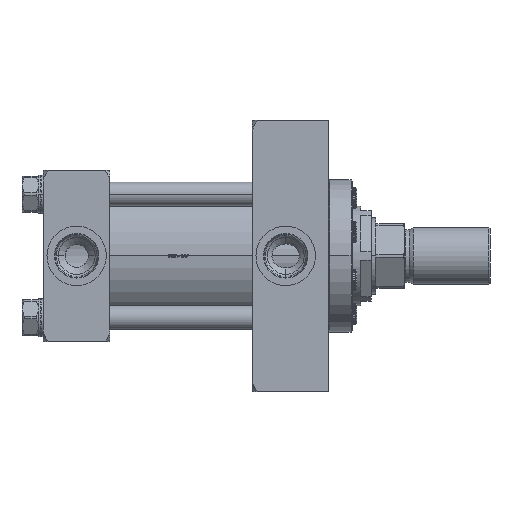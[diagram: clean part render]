
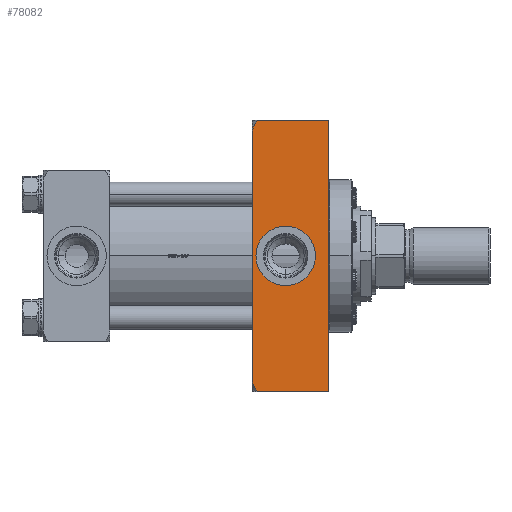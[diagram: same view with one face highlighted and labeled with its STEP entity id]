
A CAD part, top view. The second image highlights one B-rep face of the part: STEP entity #78082.
In plain terms, the highlighted planar face has unit normal (0, 0, 1).
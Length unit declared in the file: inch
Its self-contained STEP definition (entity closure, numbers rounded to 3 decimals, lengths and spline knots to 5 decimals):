
#211 = CARTESIAN_POINT ( 'NONE',  ( -3.90659, 3.51767, 2.25 ) ) ;
#674 = CARTESIAN_POINT ( 'NONE',  ( -3.94847, 3.44706, 2.25 ) ) ;
#1794 = CARTESIAN_POINT ( 'NONE',  ( -3.125, 0., 2.25 ) ) ;
#2324 = ORIENTED_EDGE ( 'NONE', *, *, #5489, .F. ) ;
#3123 = ORIENTED_EDGE ( 'NONE', *, *, #91661, .T. ) ;
#5265 = CARTESIAN_POINT ( 'NONE',  ( -3.125, 0.7815, 2.25 ) ) ;
#5489 = EDGE_CURVE ( 'NONE', #78721, #90861, #66604, .T. ) ;
#5938 = VECTOR ( 'NONE', #17924, 39.37008 ) ;
#6189 = CARTESIAN_POINT ( 'NONE',  ( -4., 3.5625, 2.25 ) ) ;
#6554 = CARTESIAN_POINT ( 'NONE',  ( -3.87574, 3.5625, 2.25 ) ) ;
#7526 = CARTESIAN_POINT ( 'NONE',  ( -3.99525, 3.31781, 2.25 ) ) ;
#8486 = CARTESIAN_POINT ( 'NONE',  ( -3.99903, 3.2902, 2.25 ) ) ;
#9337 = CARTESIAN_POINT ( 'NONE',  ( -4., -3.5625, 2.25 ) ) ;
#11548 = LINE ( 'NONE', #55930, #5938 ) ;
#11895 = PLANE ( 'NONE',  #64357 ) ;
#13955 = CARTESIAN_POINT ( 'NONE',  ( -3.125, 0., 2.25 ) ) ;
#14229 = CARTESIAN_POINT ( 'NONE',  ( -4., -3.29006, 2.25 ) ) ;
#14714 = CARTESIAN_POINT ( 'NONE',  ( -3.89158, -3.5401, 2.25 ) ) ;
#15050 = EDGE_CURVE ( 'NONE', #38373, #79080, #24473, .T. ) ;
#15660 = CARTESIAN_POINT ( 'NONE',  ( -3.94894, -3.44614, 2.25 ) ) ;
#15725 = DIRECTION ( 'NONE',  ( 0., 1., 0. ) ) ;
#15879 = CARTESIAN_POINT ( 'NONE',  ( -2., -3.5625, 2.25 ) ) ;
#16077 = ORIENTED_EDGE ( 'NONE', *, *, #50615, .T. ) ;
#17888 = EDGE_CURVE ( 'NONE', #73226, #63215, #43352, .T. ) ;
#17924 = DIRECTION ( 'NONE',  ( 1., 0., 0. ) ) ;
#19421 = EDGE_CURVE ( 'NONE', #63215, #35125, #90673, .T. ) ;
#20801 = DIRECTION ( 'NONE',  ( 0., 1., 0. ) ) ;
#21740 = DIRECTION ( 'NONE',  ( 0., 0., -1. ) ) ;
#23376 = LINE ( 'NONE', #53139, #44628 ) ;
#23618 = CARTESIAN_POINT ( 'NONE',  ( -3.99247, 3.33134, 2.25 ) ) ;
#24473 = CIRCLE ( 'NONE', #72668, 0.7815 ) ;
#29601 = EDGE_CURVE ( 'NONE', #69978, #90861, #23376, .T. ) ;
#29839 = CARTESIAN_POINT ( 'NONE',  ( -3.97173, -3.39629, 2.25 ) ) ;
#29901 = DIRECTION ( 'NONE',  ( 0., 0., -1. ) ) ;
#30449 = CARTESIAN_POINT ( 'NONE',  ( -3.93509, 3.47107, 2.25 ) ) ;
#30522 = ORIENTED_EDGE ( 'NONE', *, *, #56706, .F. ) ;
#31840 = CARTESIAN_POINT ( 'NONE',  ( -2., 3.5625, 2.25 ) ) ;
#32531 = CARTESIAN_POINT ( 'NONE',  ( -3.87574, 3.5625, 2.25 ) ) ;
#35125 = VERTEX_POINT ( 'NONE', #80769 ) ;
#35815 = EDGE_LOOP ( 'NONE', ( #38463, #3123 ) ) ;
#37253 = CARTESIAN_POINT ( 'NONE',  ( -3.89144, 3.54029, 2.25 ) ) ;
#37650 = ORIENTED_EDGE ( 'NONE', *, *, #17888, .F. ) ;
#38373 = VERTEX_POINT ( 'NONE', #5265 ) ;
#38463 = ORIENTED_EDGE ( 'NONE', *, *, #15050, .T. ) ;
#39792 = DIRECTION ( 'NONE',  ( 0., 0., -1. ) ) ;
#43352 = B_SPLINE_CURVE_WITH_KNOTS ( 'NONE', 3,
 ( #59072, #14714, #88735, #66811, #15660, #89688, #29839, #45895, #80919, #59542, #14229, #95602 ),
 .UNSPECIFIED., .F., .F.,
 ( 4, 2, 2, 2, 2, 4 ),
 ( 0.0094, 0.01149, 0.01358, 0.01462, 0.01566, 0.01775 ),
 .UNSPECIFIED. ) ;
#44628 = VECTOR ( 'NONE', #82688, 39.37008 ) ;
#45895 = CARTESIAN_POINT ( 'NONE',  ( -3.98136, -3.37055, 2.25 ) ) ;
#47354 = CARTESIAN_POINT ( 'NONE',  ( -3.125, -0.7815, 2.25 ) ) ;
#49024 = FACE_BOUND ( 'NONE', #35815, .T. ) ;
#50022 = CARTESIAN_POINT ( 'NONE',  ( -3.87574, -3.5625, 2.25 ) ) ;
#50460 = FACE_OUTER_BOUND ( 'NONE', #71950, .T. ) ;
#50615 = EDGE_CURVE ( 'NONE', #73226, #69978, #11548, .T. ) ;
#50893 = VECTOR ( 'NONE', #65671, 39.37008 ) ;
#51505 = CARTESIAN_POINT ( 'NONE',  ( -3.97202, 3.3969, 2.25 ) ) ;
#53139 = CARTESIAN_POINT ( 'NONE',  ( -2., -3.5625, 2.25 ) ) ;
#54526 = ORIENTED_EDGE ( 'NONE', *, *, #19421, .F. ) ;
#55930 = CARTESIAN_POINT ( 'NONE',  ( -4., -3.5625, 2.25 ) ) ;
#56706 = EDGE_CURVE ( 'NONE', #35125, #78721, #85900, .T. ) ;
#59072 = CARTESIAN_POINT ( 'NONE',  ( -3.87574, -3.5625, 2.25 ) ) ;
#59207 = CARTESIAN_POINT ( 'NONE',  ( -4., 3.2625, 2.25 ) ) ;
#59542 = CARTESIAN_POINT ( 'NONE',  ( -3.99615, -3.31719, 2.25 ) ) ;
#59693 = CARTESIAN_POINT ( 'NONE',  ( -3.98194, 3.37123, 2.25 ) ) ;
#61267 = DIRECTION ( 'NONE',  ( 0., 1., 0. ) ) ;
#62190 = VECTOR ( 'NONE', #77042, 39.37008 ) ;
#63215 = VERTEX_POINT ( 'NONE', #75919 ) ;
#64357 = AXIS2_PLACEMENT_3D ( 'NONE', #89285, #29901, #15725 ) ;
#65671 = DIRECTION ( 'NONE',  ( 1., 0., 0. ) ) ;
#66604 = LINE ( 'NONE', #6189, #50893 ) ;
#66811 = CARTESIAN_POINT ( 'NONE',  ( -3.93562, -3.47016, 2.25 ) ) ;
#69978 = VERTEX_POINT ( 'NONE', #15879 ) ;
#71950 = EDGE_LOOP ( 'NONE', ( #37650, #16077, #88172, #2324, #30522, #54526 ) ) ;
#72668 = AXIS2_PLACEMENT_3D ( 'NONE', #1794, #39792, #61267 ) ;
#73226 = VERTEX_POINT ( 'NONE', #50022 ) ;
#75919 = CARTESIAN_POINT ( 'NONE',  ( -4., -3.2625, 2.25 ) ) ;
#77042 = DIRECTION ( 'NONE',  ( 0., 1., 0. ) ) ;
#78082 = ADVANCED_FACE ( 'NONE', ( #50460, #49024 ), #11895, .F. ) ;
#78721 = VERTEX_POINT ( 'NONE', #32531 ) ;
#79080 = VERTEX_POINT ( 'NONE', #47354 ) ;
#80769 = CARTESIAN_POINT ( 'NONE',  ( -4., 3.2625, 2.25 ) ) ;
#80919 = CARTESIAN_POINT ( 'NONE',  ( -3.98563, -3.35735, 2.25 ) ) ;
#81077 = CARTESIAN_POINT ( 'NONE',  ( -4., 3.27637, 2.25 ) ) ;
#82688 = DIRECTION ( 'NONE',  ( 0., 1., 0. ) ) ;
#82848 = CIRCLE ( 'NONE', #92346, 0.7815 ) ;
#85900 = B_SPLINE_CURVE_WITH_KNOTS ( 'NONE', 3,
 ( #59207, #81077, #8486, #7526, #23618, #59693, #51505, #674, #30449, #211, #37253, #6554 ),
 .UNSPECIFIED., .F., .F.,
 ( 4, 2, 2, 2, 2, 4 ),
 ( 0.00462, 0.00565, 0.00669, 0.00876, 0.01083, 0.01291 ),
 .UNSPECIFIED. ) ;
#88172 = ORIENTED_EDGE ( 'NONE', *, *, #29601, .T. ) ;
#88735 = CARTESIAN_POINT ( 'NONE',  ( -3.90688, -3.51724, 2.25 ) ) ;
#89285 = CARTESIAN_POINT ( 'NONE',  ( -4., -3.5625, 2.25 ) ) ;
#89688 = CARTESIAN_POINT ( 'NONE',  ( -3.96636, -3.40891, 2.25 ) ) ;
#90673 = LINE ( 'NONE', #9337, #62190 ) ;
#90861 = VERTEX_POINT ( 'NONE', #31840 ) ;
#91661 = EDGE_CURVE ( 'NONE', #79080, #38373, #82848, .T. ) ;
#92346 = AXIS2_PLACEMENT_3D ( 'NONE', #13955, #21740, #20801 ) ;
#95602 = CARTESIAN_POINT ( 'NONE',  ( -4., -3.2625, 2.25 ) ) ;
